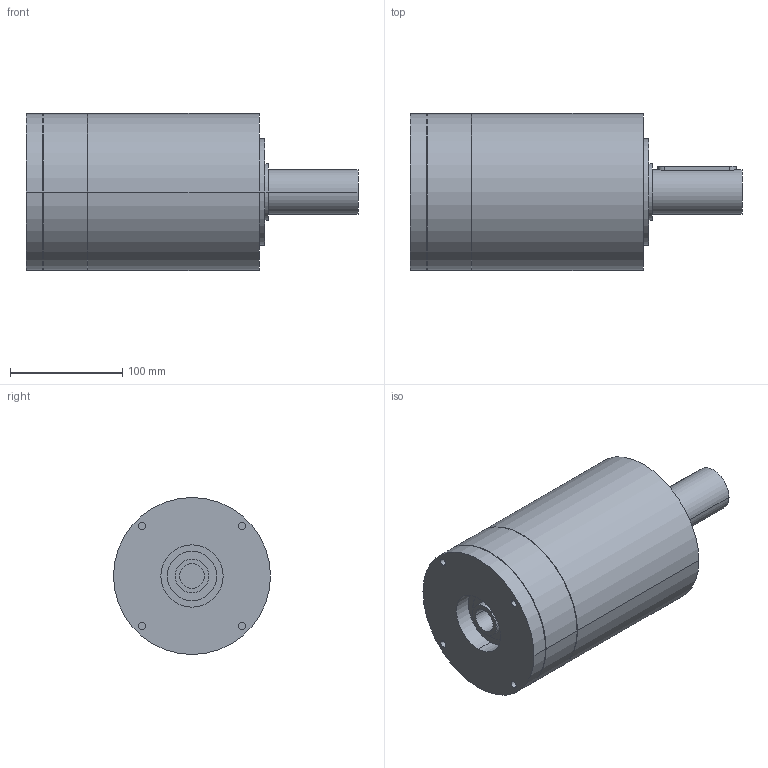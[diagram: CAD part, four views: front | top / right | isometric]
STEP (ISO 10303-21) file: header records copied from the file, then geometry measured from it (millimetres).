
FILE_DESCRIPTION(('CoCreate Modeling STEP Export'),'2;1');
FILE_NAME('GPR150_ig-9-12-16-20-28-35_40_B14_22_P01.stp','2014-08-26T15:30:32',(''),(''),'CoCreate Modeling STEP processor for AP214 (Solid Model)','CoCreate Modeling 16.00C 25-Feb-2009 (C) Parametric Technology GmbH','');
FILE_SCHEMA(('AUTOMOTIVE_DESIGN { 1 0 10303 214 1 1 1 1 }'));
Length unit declared in the file: millimetre
Products named in the file (2): GPR150_ig-9-12-16-20-28-35_40_B14_22_P01
Assembly tree (1 placements, depth 2):
  GPR150_ig-9-12-16-20-28-35_40_B14_22_P01
    GPR150_ig-9-12-16-20-28-35_40_B14_22_P01
Bounding box: 296 x 140 x 140 mm (x, y, z)
Volume: 3277582.9 mm3; surface area: 149293.8 mm2
Topology: 1 solids, 1 shells, 80 faces, 195 edges, 137 vertices
Faces by surface type: cylinder 48, plane 26, cone 6
Entity records: 2020 total; most frequent: CARTESIAN_POINT 387, ORIENTED_EDGE 386, DIRECTION 264, EDGE_CURVE 193, VERTEX_POINT 137, AXIS2_PLACEMENT_3D 102, EDGE_LOOP 102, FACE_OUTER_BOUND 80
